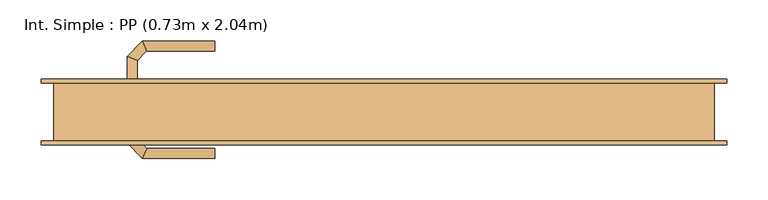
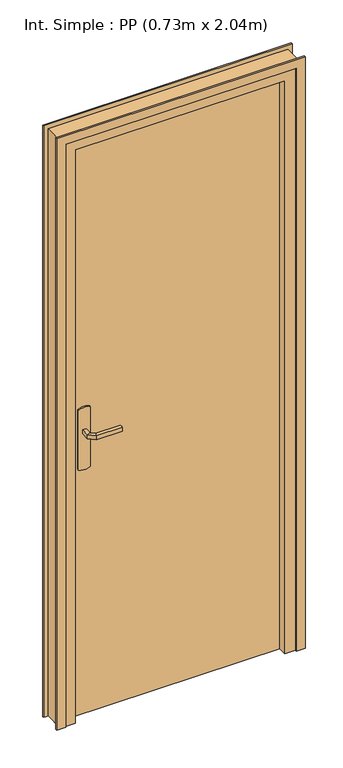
"""IFC4 building model written with IfcOpenShell, lengths in millimetres: door geometry, Int. Simple : PP (0.73m x 2.04m)."""

from ifc_helpers import new_model, si_unit, point, frame, frame_2d, origin, origin_with_axes, place, context, project, spatial, polyline, circle_curve, ellipse_curve, trimmed, segment, composite_curve, outline, extrude, faceted_brep, source, transform, mapped, element, save
from ifc_brep_helpers import plane_surface, cylinder_surface, advanced_brep


def int_simple_pp_0_73m_x_2_04m_d65dadfb(model_context):
    return source(origin(), model_context, "Body", "SolidModel", [
        extrude(outline(composite_curve([segment(trimmed(circle_curve(frame_2d((904.6410162, -340.0)), 40.0), [point((870.0, -360.0))], [point((870.0, -320.0))], False, "CARTESIAN"), True, "CONTINUOUS"), segment(polyline([(870.0, -320.0), (1080.0, -320.0)]), True, "CONTINUOUS"), segment(trimmed(circle_curve(frame_2d((1045.3589838, -340.0)), 40.0), [point((1080.0, -320.0))], [point((1080.0, -360.0))], False, "CARTESIAN"), True, "CONTINUOUS"), segment(polyline([(1080.0, -360.0), (870.0, -360.0)]), True, "CONTINUOUS")], self_intersect=False)), frame((0.0, 35.0, 0.0), z_axis=(0.0, 1.0, 0.0), x_axis=(0.0, 0.0, 1.0)), (0.0, 0.0, 1.0), 5.0),
        extrude(outline(composite_curve([segment(trimmed(circle_curve(frame_2d((1045.3589838, -340.0)), 40.0), [point((1080.0, -320.0))], [point((1080.0, -360.0))], False, "CARTESIAN"), True, "CONTINUOUS"), segment(polyline([(1080.0, -360.0), (870.0, -360.0)]), True, "CONTINUOUS"), segment(trimmed(circle_curve(frame_2d((904.6410162, -340.0)), 40.0), [point((870.0, -360.0))], [point((870.0, -320.0))], False, "CARTESIAN"), True, "CONTINUOUS"), segment(polyline([(870.0, -320.0), (1080.0, -320.0)]), True, "CONTINUOUS")], self_intersect=False)), frame((0.0, -10.0, 0.0), z_axis=(0.0, 1.0, 0.0), x_axis=(0.0, 0.0, 1.0)), (0.0, 0.0, 1.0), 5.0),
        advanced_brep(
        [(-346.0, 40.0, 1007.0), (-346.0, 40.0, 993.0), (-334.0, 40.0, 993.0), (-334.0, 40.0, 1007.0), (-334.0, 62.680388, 1007.0), (-346.0, 67.6509507, 1007.0), (-334.0, 62.680388, 993.0), (-346.0, 67.6509507, 993.0), (-322.6522273, 74.0281607, 1007.0), (-327.62279, 86.0281607, 1007.0), (-322.6522273, 74.0281607, 993.0), (-327.62279, 86.0281607, 993.0), (-239.9813594, 86.0281607, 1007.0), (-239.9813594, 74.0281607, 1007.0), (-239.9813594, 74.0281607, 993.0), (-239.9813594, 86.0281607, 993.0)],
        [
            (0, 1),
            (1, 2, circle_curve(frame((-340.0, 40.0, 1013.0457722), z_axis=(0.0, -1.0, 0.0), x_axis=(1.0, 0.0, 0.0)), 20.9244589)),
            (2, 3),
            (3, 0, circle_curve(frame((-340.0, 40.0, 986.9542278), z_axis=(0.0, -1.0, 0.0), x_axis=(1.0, 0.0, 0.0)), 20.9244589)),
            (3, 4),
            (4, 5, ellipse_curve(frame((-340.0, 65.1656693, 986.9542278), z_axis=(-0.3826834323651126, -0.9238795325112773, 0.0), x_axis=(0.9238795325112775, -0.38268343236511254, 0.0)), 22.6484711, 20.9244589)),
            (5, 0),
            (2, 6),
            (6, 4),
            (1, 7),
            (7, 6, ellipse_curve(frame((-340.0, 65.1656693, 1013.0457722), z_axis=(-0.3826834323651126, -0.9238795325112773, 0.0), x_axis=(0.9238795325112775, -0.38268343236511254, 0.0)), 22.6484711, 20.9244589)),
            (5, 7),
            (4, 8),
            (8, 9, ellipse_curve(frame((-325.1375086, 80.0281607, 986.9542278), z_axis=(-0.9238795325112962, -0.38268343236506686, 0.0), x_axis=(0.3826834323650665, -0.9238795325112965, 0.0)), 22.6484711, 20.9244589)),
            (9, 5),
            (6, 10),
            (10, 8),
            (7, 11),
            (11, 10, ellipse_curve(frame((-325.1375086, 80.0281607, 1013.0457722), z_axis=(-0.9238795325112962, -0.38268343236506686, 0.0), x_axis=(0.3826834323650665, -0.9238795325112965, 0.0)), 22.6484711, 20.9244589)),
            (9, 11),
            (12, 13, circle_curve(frame((-239.9813594, 80.0281607, 986.9542278), z_axis=(1.0, 0.0, 0.0), x_axis=(0.0, -1.0, 0.0)), 20.9244589)),
            (13, 14),
            (14, 15, circle_curve(frame((-239.9813594, 80.0281607, 1013.0457722), z_axis=(1.0, 0.0, 0.0), x_axis=(0.0, -1.0, 0.0)), 20.9244589)),
            (15, 12),
            (8, 13),
            (12, 9),
            (10, 14),
            (11, 15),
        ],
        [
            plane_surface(frame((-349.2195445, 40.0, 1000.0), z_axis=(0.0, -1.0, 0.0), x_axis=(0.0, 0.0, -1.0))),
            cylinder_surface(frame((-340.0, 40.0, 986.9542278), z_axis=(0.0, -1.0, 0.0), x_axis=(1.0, 0.0, 0.0)), 20.9244589),
            plane_surface(frame((-334.0, 40.0, 1007.0), z_axis=(1.0, 0.0, 0.0), x_axis=(0.0, 1.0, 0.0))),
            cylinder_surface(frame((-340.0, 40.0, 1013.0457722), z_axis=(0.0, -1.0, 0.0), x_axis=(1.0, 0.0, 0.0)), 20.9244589),
            plane_surface(frame((-346.0, 40.0, 993.0), z_axis=(-1.0, 0.0, 0.0), x_axis=(0.0, 1.0, 0.0))),
            cylinder_surface(frame((-340.0, 65.1656693, 986.9542278), z_axis=(-0.7071067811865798, -0.7071067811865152, 0.0), x_axis=(0.7071067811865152, -0.7071067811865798, 0.0)), 20.9244589),
            plane_surface(frame((-334.0, 62.680388, 1007.0), z_axis=(0.7071067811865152, -0.7071067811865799, 0.0), x_axis=(0.7071067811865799, 0.7071067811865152, 0.0))),
            cylinder_surface(frame((-340.0, 65.1656693, 1013.0457722), z_axis=(-0.7071067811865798, -0.7071067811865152, 0.0), x_axis=(0.7071067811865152, -0.7071067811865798, 0.0)), 20.9244589),
            plane_surface(frame((-346.0, 67.6509507, 993.0), z_axis=(-0.7071067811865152, 0.7071067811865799, 0.0), x_axis=(0.7071067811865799, 0.7071067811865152, 0.0))),
            plane_surface(frame((-239.9813594, 80.0281607, 990.7804555), z_axis=(1.0, 0.0, 0.0), x_axis=(0.0, -1.0, 0.0))),
            cylinder_surface(frame((-325.1375086, 80.0281607, 986.9542278), z_axis=(-1.0, 0.0, 0.0), x_axis=(0.0, -1.0, 0.0)), 20.9244589),
            plane_surface(frame((-322.6522273, 74.0281607, 1007.0), z_axis=(0.0, -1.0, 0.0), x_axis=(1.0, 0.0, 0.0))),
            cylinder_surface(frame((-325.1375086, 80.0281607, 1013.0457722), z_axis=(-1.0, 0.0, 0.0), x_axis=(0.0, -1.0, 0.0)), 20.9244589),
            plane_surface(frame((-327.62279, 86.0281607, 993.0), z_axis=(0.0, 1.0, 0.0), x_axis=(1.0, 0.0, 0.0))),
        ],
        [
            (0, [[1, 2, 3, 4]]),
            (1, [[5, 6, 7, -4]]),
            (2, [[8, 9, -5, -3]]),
            (3, [[10, 11, -8, -2]]),
            (4, [[-7, 12, -10, -1]]),
            (5, [[13, 14, 15, -6]]),
            (6, [[16, 17, -13, -9]]),
            (7, [[18, 19, -16, -11]]),
            (8, [[-15, 20, -18, -12]]),
            (9, [[21, 22, 23, 24]]),
            (10, [[25, -21, 26, -14]]),
            (11, [[27, -22, -25, -17]]),
            (12, [[28, -23, -27, -19]]),
            (13, [[-26, -24, -28, -20]]),
        ],
    ),
        advanced_brep(
        [(-334.0, -10.0, 993.0), (-346.0, -10.0, 993.0), (-346.0, -10.0, 1007.0), (-334.0, -10.0, 1007.0), (-334.0, -32.4852045, 1007.0), (-334.0, -32.4852045, 993.0), (-346.0, -37.4557673, 1007.0), (-346.0, -37.4557673, 993.0), (-322.5147186, -43.9704859, 1007.0), (-322.5147186, -43.9704859, 993.0), (-327.4852814, -55.9704859, 1007.0), (-327.4852814, -55.9704859, 993.0), (-239.9542163, -43.9704859, 993.0), (-239.9542163, -43.9704859, 1007.0), (-239.9542163, -55.9704859, 1007.0), (-239.9542163, -55.9704859, 993.0)],
        [
            (0, 1, circle_curve(frame((-340.0, -10.0, 1013.0457722), z_axis=(0.0, 1.0, 0.0), x_axis=(-1.0, 0.0, 0.0)), 20.9244589)),
            (1, 2),
            (2, 3, circle_curve(frame((-340.0, -10.0, 986.9542278), z_axis=(0.0, 1.0, 0.0), x_axis=(-1.0, 0.0, 0.0)), 20.9244589)),
            (3, 0),
            (3, 4),
            (4, 5),
            (5, 0),
            (2, 6),
            (6, 4, ellipse_curve(frame((-340.0, -34.9704859, 986.9542278), z_axis=(-0.3826834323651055, 0.9238795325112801, 0.0), x_axis=(0.9238795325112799, 0.3826834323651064, 0.0)), 22.6484711, 20.9244589)),
            (1, 7),
            (7, 6),
            (5, 7, ellipse_curve(frame((-340.0, -34.9704859, 1013.0457722), z_axis=(-0.3826834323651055, 0.9238795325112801, 0.0), x_axis=(0.9238795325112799, 0.3826834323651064, 0.0)), 22.6484711, 20.9244589)),
            (4, 8),
            (8, 9),
            (9, 5),
            (6, 10),
            (10, 8, ellipse_curve(frame((-325.0, -49.9704859, 986.9542278), z_axis=(-0.9238795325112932, 0.382683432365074, 0.0), x_axis=(0.3826834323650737, 0.9238795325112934, 0.0)), 22.6484711, 20.9244589)),
            (7, 11),
            (11, 10),
            (9, 11, ellipse_curve(frame((-325.0, -49.9704859, 1013.0457722), z_axis=(-0.9238795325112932, 0.382683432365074, 0.0), x_axis=(0.3826834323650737, 0.9238795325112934, 0.0)), 22.6484711, 20.9244589)),
            (12, 13),
            (13, 14, circle_curve(frame((-239.9542163, -49.9704859, 986.9542278), z_axis=(1.0, 0.0, 0.0), x_axis=(0.0, -1.0, 0.0)), 20.9244589)),
            (14, 15),
            (15, 12, circle_curve(frame((-239.9542163, -49.9704859, 1013.0457722), z_axis=(1.0, 0.0, 0.0), x_axis=(0.0, -1.0, 0.0)), 20.9244589)),
            (8, 13),
            (12, 9),
            (10, 14),
            (11, 15),
        ],
        [
            plane_surface(frame((-349.2195445, -10.0, 1000.0), z_axis=(0.0, 1.0, 0.0), x_axis=(0.0, 0.0, 1.0))),
            plane_surface(frame((-334.0, -10.0, 993.0), z_axis=(1.0, 0.0, 0.0), x_axis=(0.0, -1.0, 0.0))),
            cylinder_surface(frame((-340.0, -10.0, 986.9542278), z_axis=(0.0, 1.0, 0.0), x_axis=(-1.0, 0.0, 0.0)), 20.9244589),
            plane_surface(frame((-346.0, -10.0, 1007.0), z_axis=(-1.0, 0.0, 0.0), x_axis=(0.0, -1.0, 0.0))),
            cylinder_surface(frame((-340.0, -10.0, 1013.0457722), z_axis=(0.0, 1.0, 0.0), x_axis=(-1.0, 0.0, 0.0)), 20.9244589),
            plane_surface(frame((-334.0, -32.4852045, 993.0), z_axis=(0.7071067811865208, 0.7071067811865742, 0.0), x_axis=(0.7071067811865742, -0.7071067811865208, 0.0))),
            cylinder_surface(frame((-340.0, -34.9704859, 986.9542278), z_axis=(-0.7071067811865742, 0.7071067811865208, 0.0), x_axis=(-0.7071067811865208, -0.7071067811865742, 0.0)), 20.9244589),
            plane_surface(frame((-346.0, -37.4557673, 1007.0), z_axis=(-0.7071067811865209, -0.7071067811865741, 0.0), x_axis=(0.7071067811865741, -0.7071067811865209, 0.0))),
            cylinder_surface(frame((-340.0, -34.9704859, 1013.0457722), z_axis=(-0.7071067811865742, 0.7071067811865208, 0.0), x_axis=(-0.7071067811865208, -0.7071067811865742, 0.0)), 20.9244589),
            plane_surface(frame((-239.9542163, -49.9704859, 990.7804555), z_axis=(1.0, 0.0, 0.0), x_axis=(0.0, -1.0, 0.0))),
            plane_surface(frame((-322.5147186, -43.9704859, 993.0), z_axis=(0.0, 1.0, 0.0), x_axis=(1.0, 0.0, 0.0))),
            cylinder_surface(frame((-325.0, -49.9704859, 986.9542278), z_axis=(-1.0, 0.0, 0.0), x_axis=(0.0, -1.0, 0.0)), 20.9244589),
            plane_surface(frame((-327.4852814, -55.9704859, 1007.0), z_axis=(0.0, -1.0, 0.0), x_axis=(1.0, 0.0, 0.0))),
            cylinder_surface(frame((-325.0, -49.9704859, 1013.0457722), z_axis=(-1.0, 0.0, 0.0), x_axis=(0.0, -1.0, 0.0)), 20.9244589),
        ],
        [
            (0, [[1, 2, 3, 4]]),
            (1, [[5, 6, 7, -4]]),
            (2, [[8, 9, -5, -3]]),
            (3, [[10, 11, -8, -2]]),
            (4, [[-7, 12, -10, -1]]),
            (5, [[13, 14, 15, -6]]),
            (6, [[16, 17, -13, -9]]),
            (7, [[18, 19, -16, -11]]),
            (8, [[-15, 20, -18, -12]]),
            (9, [[21, 22, 23, 24]]),
            (10, [[25, -21, 26, -14]]),
            (11, [[27, -22, -25, -17]]),
            (12, [[28, -23, -27, -19]]),
            (13, [[-26, -24, -28, -20]]),
        ],
    ),
        extrude(outline(polyline([(-400.0, -5.0), (-400.0, 35.0), (330.0, 35.0), (330.0, -5.0), (-400.0, -5.0)])), origin_with_axes(), (0.0, 0.0, 1.0), 2040.0),
        faceted_brep([(-435.0, 35.0, 0.0), (-400.0, 35.0, 0.0), (-400.0, -5.0, 0.0), (-385.0, -5.0, 0.0), (-385.0, -35.0, 0.0), (-435.0, -35.0, 0.0), (-435.0, -35.0, 2075.0), (-435.0, 35.0, 2075.0), (-385.0, -35.0, 2025.0), (315.0, -35.0, 2025.0), (315.0, -35.0, 0.0), (365.0, -35.0, 0.0), (365.0, -35.0, 2075.0), (-385.0, -5.0, 2025.0), (-400.0, -5.0, 2040.0), (330.0, -5.0, 2040.0), (330.0, -5.0, 0.0), (315.0, -5.0, 0.0), (315.0, -5.0, 2025.0), (-400.0, 35.0, 2040.0), (365.0, 35.0, 2075.0), (365.0, 35.0, 0.0), (330.0, 35.0, 0.0), (330.0, 35.0, 2040.0)], [[[0, 1, 2, 3, 4, 5]], [[5, 6, 7, 0]], [[4, 8, 9, 10, 11, 12, 6, 5]], [[3, 13, 8, 4]], [[2, 14, 15, 16, 17, 18, 13, 3]], [[1, 19, 14, 2]], [[0, 7, 20, 21, 22, 23, 19, 1]], [[12, 11, 21, 20]], [[21, 11, 10, 17, 16, 22]], [[18, 17, 10, 9]], [[23, 22, 16, 15]], [[6, 12, 20, 7]], [[13, 18, 9, 8]], [[19, 23, 15, 14]]]),
        extrude(outline(polyline([(0.0, -420.0), (2060.0, -420.0), (2060.0, 350.0), (0.0, 350.0), (0.0, 380.0), (2090.0, 380.0), (2090.0, -450.0), (0.0, -450.0), (0.0, -420.0)])), frame((0.0, 35.0, 0.0), z_axis=(0.0, 1.0, 0.0), x_axis=(0.0, 0.0, 1.0)), (0.0, 0.0, 1.0), 5.0),
        extrude(outline(polyline([(0.0, -420.0), (2060.0, -420.0), (2060.0, 350.0), (0.0, 350.0), (0.0, 380.0), (2090.0, 380.0), (2090.0, -450.0), (0.0, -450.0), (0.0, -420.0)])), frame((0.0, -40.0, 0.0), z_axis=(0.0, 1.0, 0.0), x_axis=(0.0, 0.0, 1.0)), (0.0, 0.0, 1.0), 5.0),
    ])


if __name__ == "__main__":
    model = new_model("IFC4")
    model_context = context("Model", 3, world=origin())
    ifc_project = project(units=[si_unit("LENGTHUNIT", "METRE", prefix="MILLI")], contexts=[model_context])
    site = spatial("IfcSite", under=ifc_project)
    building = spatial("IfcBuilding", under=site)
    placement = place(None, origin())
    int_simple_pp_0_73m_x_2_04m_shape = int_simple_pp_0_73m_x_2_04m_d65dadfb(model_context)
    element("IfcDoor", 1, ObjectType="Int. Simple : PP (0.73m x 2.04m)", at=placement, inside=building, context=model_context, shape_type="MappedRepresentation", body=[
        mapped(int_simple_pp_0_73m_x_2_04m_shape, transform((0.0, 0.0, 0.0), x_axis=(1.0, 0.0, 0.0), y_axis=(0.0, 1.0, 0.0), z_axis=(0.0, 0.0, 1.0))),
    ])
    save(model, "model.ifc")
